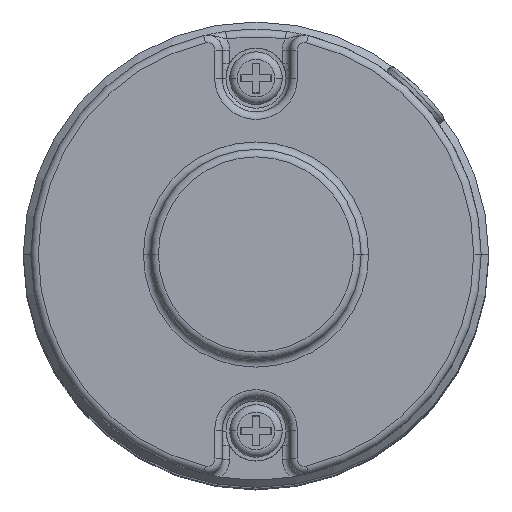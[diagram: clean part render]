
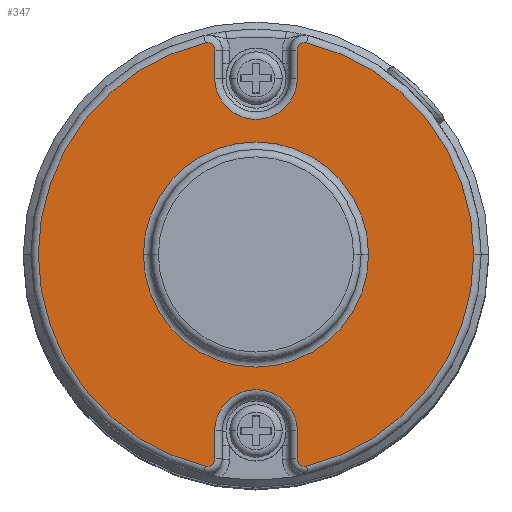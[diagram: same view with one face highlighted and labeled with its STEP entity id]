
A CAD part, top view. The second image highlights one B-rep face of the part: STEP entity #347.
In plain terms, the highlighted planar face has unit normal (0, 0, 1).
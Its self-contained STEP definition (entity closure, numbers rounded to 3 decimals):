
#61 = VERTEX_POINT ( 'NONE', #2660 ) ;
#78 = ORIENTED_EDGE ( 'NONE', *, *, #6513, .T. ) ;
#109 = ORIENTED_EDGE ( 'NONE', *, *, #5282, .T. ) ;
#144 = VERTEX_POINT ( 'NONE', #970 ) ;
#161 = CARTESIAN_POINT ( 'NONE',  ( -6.5, -27.235, 20.5 ) ) ;
#205 = CARTESIAN_POINT ( 'NONE',  ( 0., 0., 20.5 ) ) ;
#206 = DIRECTION ( 'NONE',  ( 0., 0., -1. ) ) ;
#231 = CARTESIAN_POINT ( 'NONE',  ( 6.5, -27.235, 20.5 ) ) ;
#287 = EDGE_CURVE ( 'NONE', #5343, #6069, #4021, .T. ) ;
#343 = CARTESIAN_POINT ( 'NONE',  ( 0., 23.5, 20.5 ) ) ;
#347 = ADVANCED_FACE ( 'NONE', ( #623, #8342 ), #2993, .T. ) ;
#349 = CARTESIAN_POINT ( 'NONE',  ( 15., 0., 20.5 ) ) ;
#364 = CARTESIAN_POINT ( 'NONE',  ( -15., 0., 20.5 ) ) ;
#448 = ORIENTED_EDGE ( 'NONE', *, *, #6620, .T. ) ;
#617 = DIRECTION ( 'NONE',  ( 1., 0., 0. ) ) ;
#623 = FACE_OUTER_BOUND ( 'NONE', #1306, .T. ) ;
#655 = CARTESIAN_POINT ( 'NONE',  ( -5.5, 27.235, 20.5 ) ) ;
#660 = DIRECTION ( 'NONE',  ( 1., 0., 0. ) ) ;
#708 = CARTESIAN_POINT ( 'NONE',  ( 6.5, 27.235, 20.5 ) ) ;
#746 = AXIS2_PLACEMENT_3D ( 'NONE', #708, #2690, #5260 ) ;
#875 = CIRCLE ( 'NONE', #746, 1. ) ;
#909 = ORIENTED_EDGE ( 'NONE', *, *, #3436, .T. ) ;
#970 = CARTESIAN_POINT ( 'NONE',  ( 5.5, 27.235, 20.5 ) ) ;
#982 = LINE ( 'NONE', #7322, #2018 ) ;
#983 = VERTEX_POINT ( 'NONE', #7595 ) ;
#984 = DIRECTION ( 'NONE',  ( 1., 0., 0. ) ) ;
#1035 = CARTESIAN_POINT ( 'NONE',  ( 29., 0., 20.5 ) ) ;
#1090 = CIRCLE ( 'NONE', #6885, 5.5 ) ;
#1093 = VERTEX_POINT ( 'NONE', #7294 ) ;
#1238 = CARTESIAN_POINT ( 'NONE',  ( 6.732, -28.208, 20.5 ) ) ;
#1269 = EDGE_CURVE ( 'NONE', #6810, #2064, #5415, .T. ) ;
#1306 = EDGE_LOOP ( 'NONE', ( #2727, #109, #78, #6946, #7413, #4739, #7708, #2376, #909, #448, #7754, #1882, #1652 ) ) ;
#1328 = CARTESIAN_POINT ( 'NONE',  ( -6.5, 27.235, 20.5 ) ) ;
#1370 = DIRECTION ( 'NONE',  ( 0., 0., 1. ) ) ;
#1417 = CIRCLE ( 'NONE', #4798, 29. ) ;
#1461 = LINE ( 'NONE', #6441, #6193 ) ;
#1475 = LINE ( 'NONE', #2783, #4472 ) ;
#1477 = CARTESIAN_POINT ( 'NONE',  ( 0., 0., 20.5 ) ) ;
#1600 = EDGE_CURVE ( 'NONE', #6005, #1093, #6514, .T. ) ;
#1609 = DIRECTION ( 'NONE',  ( 1., 0., 0. ) ) ;
#1652 = ORIENTED_EDGE ( 'NONE', *, *, #5424, .T. ) ;
#1676 = DIRECTION ( 'NONE',  ( 0., 0., 1. ) ) ;
#1693 = AXIS2_PLACEMENT_3D ( 'NONE', #1477, #206, #1609 ) ;
#1882 = ORIENTED_EDGE ( 'NONE', *, *, #8314, .T. ) ;
#1890 = CARTESIAN_POINT ( 'NONE',  ( 0., 0., 20.5 ) ) ;
#1914 = AXIS2_PLACEMENT_3D ( 'NONE', #343, #3585, #4980 ) ;
#2018 = VECTOR ( 'NONE', #6806, 1000. ) ;
#2064 = VERTEX_POINT ( 'NONE', #7183 ) ;
#2255 = DIRECTION ( 'NONE',  ( 0., 0., 1. ) ) ;
#2318 = VERTEX_POINT ( 'NONE', #8315 ) ;
#2376 = ORIENTED_EDGE ( 'NONE', *, *, #3703, .T. ) ;
#2421 = ORIENTED_EDGE ( 'NONE', *, *, #6380, .T. ) ;
#2660 = CARTESIAN_POINT ( 'NONE',  ( -6.732, 28.208, 20.5 ) ) ;
#2690 = DIRECTION ( 'NONE',  ( 0., 0., 1. ) ) ;
#2727 = ORIENTED_EDGE ( 'NONE', *, *, #1269, .T. ) ;
#2783 = CARTESIAN_POINT ( 'NONE',  ( -5.5, -23.5, 20.5 ) ) ;
#2784 = DIRECTION ( 'NONE',  ( 0., 0., -1. ) ) ;
#2797 = EDGE_CURVE ( 'NONE', #2318, #144, #875, .T. ) ;
#2825 = AXIS2_PLACEMENT_3D ( 'NONE', #5454, #2255, #984 ) ;
#2924 = CARTESIAN_POINT ( 'NONE',  ( 5.5, -27.235, 20.5 ) ) ;
#2993 = PLANE ( 'NONE',  #5755 ) ;
#3021 = CARTESIAN_POINT ( 'NONE',  ( 0., -23.5, 20.5 ) ) ;
#3065 = DIRECTION ( 'NONE',  ( 0., 0., -1. ) ) ;
#3318 = VERTEX_POINT ( 'NONE', #655 ) ;
#3397 = DIRECTION ( 'NONE',  ( 0., -1., 0. ) ) ;
#3430 = CARTESIAN_POINT ( 'NONE',  ( -5.5, 23.5, 20.5 ) ) ;
#3436 = EDGE_CURVE ( 'NONE', #3318, #61, #4030, .T. ) ;
#3564 = DIRECTION ( 'NONE',  ( 1., 0., 0. ) ) ;
#3585 = DIRECTION ( 'NONE',  ( 0., 0., -1. ) ) ;
#3663 = DIRECTION ( 'NONE',  ( 1., 0., 0. ) ) ;
#3673 = DIRECTION ( 'NONE',  ( 1., 0., 0. ) ) ;
#3703 = EDGE_CURVE ( 'NONE', #7584, #3318, #982, .T. ) ;
#3710 = CARTESIAN_POINT ( 'NONE',  ( 0., 0., 20.5 ) ) ;
#3840 = CIRCLE ( 'NONE', #8171, 29. ) ;
#4012 = ORIENTED_EDGE ( 'NONE', *, *, #287, .T. ) ;
#4021 = CIRCLE ( 'NONE', #5776, 15. ) ;
#4030 = CIRCLE ( 'NONE', #4847, 1. ) ;
#4037 = CIRCLE ( 'NONE', #2825, 29. ) ;
#4216 = EDGE_LOOP ( 'NONE', ( #2421, #4012 ) ) ;
#4456 = DIRECTION ( 'NONE',  ( 0., 0., 1. ) ) ;
#4472 = VECTOR ( 'NONE', #5308, 1000. ) ;
#4515 = CIRCLE ( 'NONE', #1693, 15. ) ;
#4739 = ORIENTED_EDGE ( 'NONE', *, *, #5133, .T. ) ;
#4798 = AXIS2_PLACEMENT_3D ( 'NONE', #5350, #7429, #7347 ) ;
#4847 = AXIS2_PLACEMENT_3D ( 'NONE', #1328, #1370, #617 ) ;
#4899 = AXIS2_PLACEMENT_3D ( 'NONE', #161, #7462, #3663 ) ;
#4969 = EDGE_CURVE ( 'NONE', #5676, #2318, #4037, .T. ) ;
#4980 = DIRECTION ( 'NONE',  ( 1., 0., 0. ) ) ;
#5008 = CIRCLE ( 'NONE', #1914, 5.5 ) ;
#5133 = EDGE_CURVE ( 'NONE', #144, #5156, #1461, .T. ) ;
#5156 = VERTEX_POINT ( 'NONE', #5256 ) ;
#5160 = CARTESIAN_POINT ( 'NONE',  ( -6.732, -28.208, 20.5 ) ) ;
#5256 = CARTESIAN_POINT ( 'NONE',  ( 5.5, 23.5, 20.5 ) ) ;
#5260 = DIRECTION ( 'NONE',  ( 1., 0., 0. ) ) ;
#5282 = EDGE_CURVE ( 'NONE', #2064, #7734, #7008, .T. ) ;
#5308 = DIRECTION ( 'NONE',  ( 0., 1., 0. ) ) ;
#5343 = VERTEX_POINT ( 'NONE', #364 ) ;
#5348 = DIRECTION ( 'NONE',  ( 1., 0., 0. ) ) ;
#5350 = CARTESIAN_POINT ( 'NONE',  ( 0., 0., 20.5 ) ) ;
#5415 = LINE ( 'NONE', #2924, #6066 ) ;
#5424 = EDGE_CURVE ( 'NONE', #983, #6810, #1090, .T. ) ;
#5454 = CARTESIAN_POINT ( 'NONE',  ( 0., 0., 20.5 ) ) ;
#5676 = VERTEX_POINT ( 'NONE', #1035 ) ;
#5755 = AXIS2_PLACEMENT_3D ( 'NONE', #1890, #4456, #660 ) ;
#5776 = AXIS2_PLACEMENT_3D ( 'NONE', #205, #2784, #5348 ) ;
#6005 = VERTEX_POINT ( 'NONE', #5160 ) ;
#6066 = VECTOR ( 'NONE', #7406, 1000. ) ;
#6069 = VERTEX_POINT ( 'NONE', #349 ) ;
#6193 = VECTOR ( 'NONE', #3397, 1000. ) ;
#6380 = EDGE_CURVE ( 'NONE', #6069, #5343, #4515, .T. ) ;
#6441 = CARTESIAN_POINT ( 'NONE',  ( 5.5, 23.5, 20.5 ) ) ;
#6513 = EDGE_CURVE ( 'NONE', #7734, #5676, #1417, .T. ) ;
#6514 = CIRCLE ( 'NONE', #4899, 1. ) ;
#6620 = EDGE_CURVE ( 'NONE', #61, #6005, #3840, .T. ) ;
#6806 = DIRECTION ( 'NONE',  ( 0., 1., 0. ) ) ;
#6810 = VERTEX_POINT ( 'NONE', #7298 ) ;
#6866 = DIRECTION ( 'NONE',  ( 1., 0., 0. ) ) ;
#6885 = AXIS2_PLACEMENT_3D ( 'NONE', #3021, #3065, #6866 ) ;
#6946 = ORIENTED_EDGE ( 'NONE', *, *, #4969, .T. ) ;
#7008 = CIRCLE ( 'NONE', #8093, 1. ) ;
#7183 = CARTESIAN_POINT ( 'NONE',  ( 5.5, -27.235, 20.5 ) ) ;
#7294 = CARTESIAN_POINT ( 'NONE',  ( -5.5, -27.235, 20.5 ) ) ;
#7298 = CARTESIAN_POINT ( 'NONE',  ( 5.5, -23.5, 20.5 ) ) ;
#7322 = CARTESIAN_POINT ( 'NONE',  ( -5.5, 27.235, 20.5 ) ) ;
#7347 = DIRECTION ( 'NONE',  ( 1., 0., 0. ) ) ;
#7406 = DIRECTION ( 'NONE',  ( 0., -1., 0. ) ) ;
#7413 = ORIENTED_EDGE ( 'NONE', *, *, #2797, .T. ) ;
#7429 = DIRECTION ( 'NONE',  ( 0., 0., 1. ) ) ;
#7462 = DIRECTION ( 'NONE',  ( 0., 0., 1. ) ) ;
#7516 = DIRECTION ( 'NONE',  ( 0., 0., 1. ) ) ;
#7584 = VERTEX_POINT ( 'NONE', #3430 ) ;
#7595 = CARTESIAN_POINT ( 'NONE',  ( -5.5, -23.5, 20.5 ) ) ;
#7708 = ORIENTED_EDGE ( 'NONE', *, *, #8055, .T. ) ;
#7734 = VERTEX_POINT ( 'NONE', #1238 ) ;
#7754 = ORIENTED_EDGE ( 'NONE', *, *, #1600, .T. ) ;
#8055 = EDGE_CURVE ( 'NONE', #5156, #7584, #5008, .T. ) ;
#8093 = AXIS2_PLACEMENT_3D ( 'NONE', #231, #1676, #3564 ) ;
#8171 = AXIS2_PLACEMENT_3D ( 'NONE', #3710, #7516, #3673 ) ;
#8314 = EDGE_CURVE ( 'NONE', #1093, #983, #1475, .T. ) ;
#8315 = CARTESIAN_POINT ( 'NONE',  ( 6.732, 28.208, 20.5 ) ) ;
#8342 = FACE_BOUND ( 'NONE', #4216, .T. ) ;
